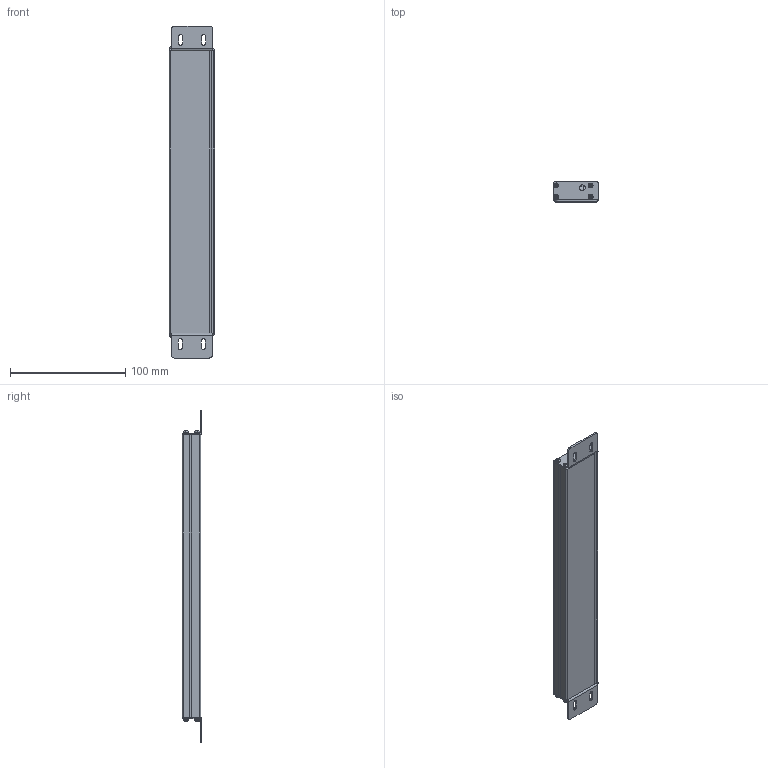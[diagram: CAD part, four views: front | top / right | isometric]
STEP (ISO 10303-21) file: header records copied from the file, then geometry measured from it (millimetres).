
FILE_DESCRIPTION((''),'2;1');
FILE_NAME('HNE-0640-LEFT_ASM','2020-04-07T',('Administrator'),(''),'PRO/ENGINEER BY PARAMETRIC TECHNOLOGY CORPORATION, 2010280','PRO/ENGINEER BY PARAMETRIC TECHNOLOGY CORPORATION, 2010280','');
FILE_SCHEMA(('AUTOMOTIVE_DESIGN { 1 2 10303 214 0 1 1 1 }'));
Products named in the file (10): HER-0640-SHELL-LEFT; HNE-0640-PCB-LEFT; HNE-0640-5MM-LED-LEFT; HNE-0640-GLASS-WINDOW; HNE-0640-EAR-LEFT-BOTTOM; HNE-0640-EAR-LEFT-TOP; HNE-0640-ANXIE_LOGO; HNE-0640-TEXT-LEFT; HNE-0640-SCREW-M2X04-9; HNE-0640-LEFT_ASM
Assembly tree (21 placements, depth 2):
  HNE-0640-LEFT_ASM
    HER-0640-SHELL-LEFT
    HNE-0640-PCB-LEFT
    HNE-0640-5MM-LED-LEFT  x6
    HNE-0640-GLASS-WINDOW
    HNE-0640-EAR-LEFT-BOTTOM
    HNE-0640-EAR-LEFT-TOP
    HNE-0640-ANXIE_LOGO
    HNE-0640-TEXT-LEFT
    HNE-0640-SCREW-M2X04-9  x8
Bounding box: 39.1 x 17.17 x 288.12 mm (x, y, z)
Volume: 63589.5 mm3; surface area: 85850.1 mm2
Topology: 49 solids, 49 shells, 2281 faces, 6601 edges, 4340 vertices
Faces by surface type: plane 826, bspline 766, cylinder 485, extrusion 144, torus 32, cone 16, sphere 12
Entity records: 158833 total; most frequent: CARTESIAN_POINT 110491, ORIENTED_EDGE 9772, EDGE_CURVE 4886, DIRECTION 4465, VERTEX_POINT 3232, PRESENTATION_STYLE_ASSIGNMENT 3180, STYLED_ITEM 3178, CURVE_STYLE 3172
